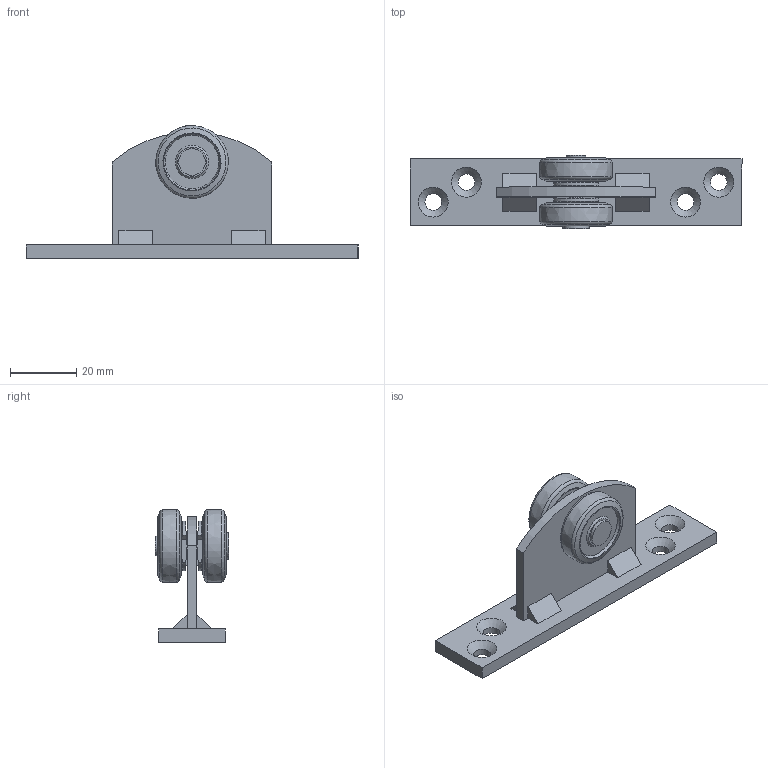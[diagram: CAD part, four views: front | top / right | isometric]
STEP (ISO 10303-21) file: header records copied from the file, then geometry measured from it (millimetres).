
FILE_DESCRIPTION(/* description */ ('Einfachrolle mit Flansch Nr.0'),/* implementation_level */ '2;1');
FILE_NAME(/* name */ 'Q:\sge-ma\Produktmanagement-STB\STB\Workspace\TraceParts\Einfachrolle mit Flansch\010336980.stp',/* time_stamp */ '2018-03-02T11:29:47+01:00',/* author */ ('avschreier'),/* organization */ (''),/* preprocessor_version */ 'ST-DEVELOPER v16.1',/* originating_system */ 'Autodesk Inventor 2016',/* authorisation */ '');
FILE_SCHEMA (('CONFIG_CONTROL_DESIGN'));
Length unit declared in the file: millimetre
Products named in the file (7): 010336980_Schweißnähte; 000304010; 000303234; 000302027; 000302070; 336290000; 010336980
Assembly tree (8 placements, depth 2):
  010336980
    010336980_Schweißnähte
    000304010
    000303234  x2
    000302027
    000302070
    336290000  x2
Bounding box: 100 x 22 x 39.91 mm (x, y, z)
Volume: 17452.2 mm3; surface area: 12804.2 mm2
Topology: 11 solids, 11 shells, 116 faces, 248 edges, 161 vertices
Faces by surface type: plane 71, cone 22, cylinder 16, torus 5, bspline 2
Full cylindrical faces by diameter (mm): 5 x4, 6 x3, 6.1 x2, 8 x1
Entity records: 2292 total; most frequent: CARTESIAN_POINT 393, DIRECTION 390, ORIENTED_EDGE 296, AXIS2_PLACEMENT_3D 150, EDGE_CURVE 148, EDGE_LOOP 125, VERTEX_POINT 111, LINE 90
